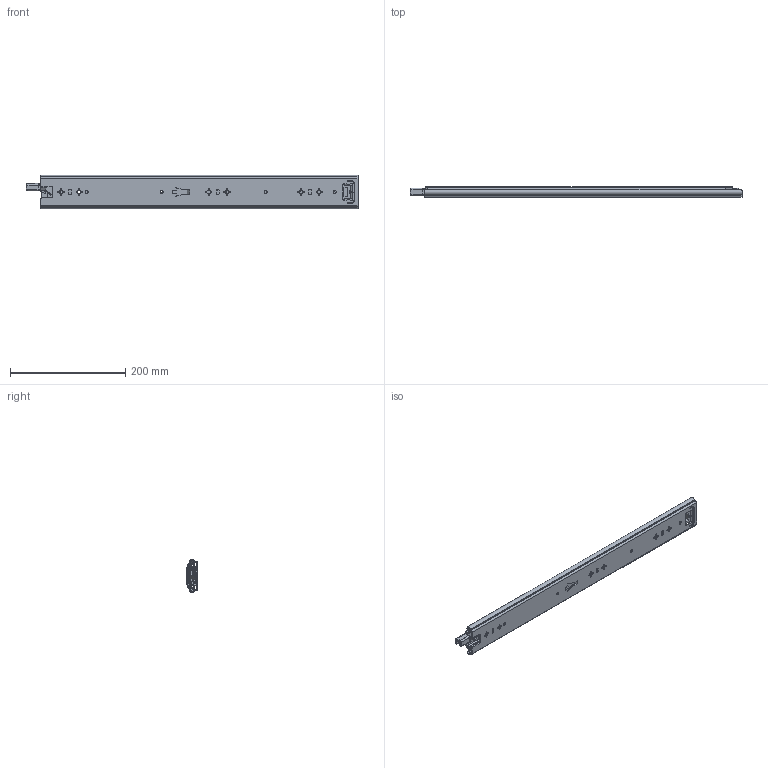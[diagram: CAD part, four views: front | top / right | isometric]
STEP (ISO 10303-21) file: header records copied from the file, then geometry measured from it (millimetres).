
FILE_DESCRIPTION((''),'2;1');
FILE_NAME('KP-57-01ZUZHUANGTU-22YOU_ASM','2023-04-03T',('jishu015'),(''),'PRO/ENGINEER BY PARAMETRIC TECHNOLOGY CORPORATION, 2010280','PRO/ENGINEER BY PARAMETRIC TECHNOLOGY CORPORATION, 2010280','');
FILE_SCHEMA(('CONFIG_CONTROL_DESIGN'));
Products named in the file (21): KP-57-01WEIKE-1811; 1057WEIJIAO________________; WAIKE_______________ASM; KP-57-01ZHONGGUI-26___; ZHONGGUIPEIJIAN-1121; ZHONGGUISUOKOU-11______________; KP-57-01ZHONGGUI-26____ASM; 1057XIAOZHUJIA________________; 1057-5-6GANZHU________________; 1057XIAOZHUJIA-14GE26____ASM; KP-57-01NEIGUI-22_; PJ-57-08______________; DIAOPIAN-11______________; 50XINSUOKOU-1______________; 1053-3SBANJI122____________; JIAO11____________; KP-57-01NEIGUI-22__ASM; 1053ZHUTIAO-275___; 53-5-6GANZHU11; 1053ZHUTIAO-175MM_______________ASM; KP-57-01ZUZHUANGTU-22YOU_ASM
Assembly tree (64 placements, depth 3):
  KP-57-01ZUZHUANGTU-22YOU_ASM
    WAIKE_______________ASM
      KP-57-01WEIKE-1811
      1057WEIJIAO________________
    KP-57-01ZHONGGUI-26____ASM
      KP-57-01ZHONGGUI-26___
      ZHONGGUIPEIJIAN-1121
      ZHONGGUISUOKOU-11______________
    1057XIAOZHUJIA-14GE26____ASM
      1057XIAOZHUJIA________________
      1057-5-6GANZHU________________  x36
    KP-57-01NEIGUI-22__ASM
      KP-57-01NEIGUI-22_
      PJ-57-08______________
      DIAOPIAN-11______________
      50XINSUOKOU-1______________
      1053-3SBANJI122____________
      JIAO11____________
    1053ZHUTIAO-175MM_______________ASM  x2
      1053ZHUTIAO-275___
      53-5-6GANZHU11
Bounding box: 575.48 x 19 x 57.67 mm (x, y, z)
Volume: 240804.7 mm3; surface area: 261409 mm2
Topology: 69 solids, 69 shells, 1972 faces, 5668 edges, 3559 vertices
Faces by surface type: plane 834, cylinder 826, sphere 119, bspline 91, cone 60, extrusion 23, torus 19
Entity records: 65044 total; most frequent: CARTESIAN_POINT 16399, ORIENTED_EDGE 10308, DIRECTION 9976, EDGE_CURVE 5154, AXIS2_PLACEMENT_3D 3429, VERTEX_POINT 3331, VECTOR 3118, LINE 3095
